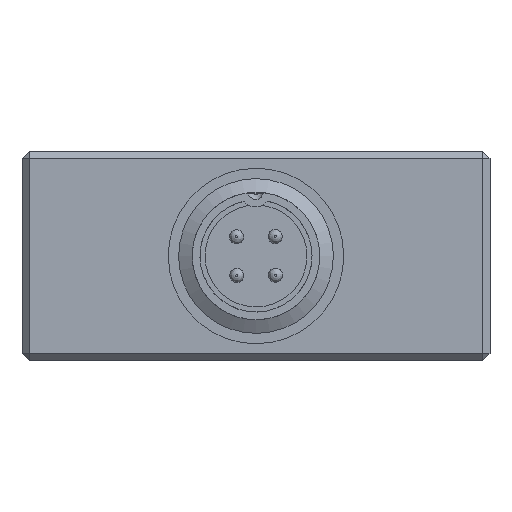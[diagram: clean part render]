
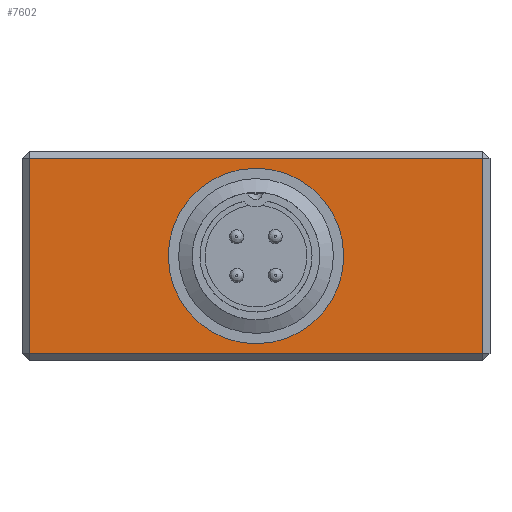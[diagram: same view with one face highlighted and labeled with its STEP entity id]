
A CAD part, left-side view. The second image highlights one B-rep face of the part: STEP entity #7602.
In plain terms, the highlighted planar face has unit normal (-1, 0, 0).
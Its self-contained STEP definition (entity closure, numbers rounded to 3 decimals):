
#647=VECTOR('',#8451,1.);
#648=VECTOR('',#8452,1.);
#649=VECTOR('',#8453,1.);
#650=VECTOR('',#8454,1.);
#1330=LINE('',#9661,#647);
#1331=LINE('',#9664,#648);
#1332=LINE('',#9666,#649);
#1333=LINE('',#9668,#650);
#2013=PLANE('',#8068);
#2243=VERTEX_POINT('',#9662);
#2244=VERTEX_POINT('',#9663);
#2245=VERTEX_POINT('',#9665);
#2246=VERTEX_POINT('',#9667);
#2247=VERTEX_POINT('',#9670);
#3009=CIRCLE('',#8069,3.6);
#3101=EDGE_CURVE('',#2243,#2244,#1330,.T.);
#3102=EDGE_CURVE('',#2245,#2243,#1331,.T.);
#3103=EDGE_CURVE('',#2246,#2245,#1332,.T.);
#3104=EDGE_CURVE('',#2244,#2246,#1333,.T.);
#3105=EDGE_CURVE('',#2247,#2247,#3009,.T.);
#4222=ORIENTED_EDGE('',*,*,#3101,.F.);
#4223=ORIENTED_EDGE('',*,*,#3102,.F.);
#4224=ORIENTED_EDGE('',*,*,#3103,.F.);
#4225=ORIENTED_EDGE('',*,*,#3104,.F.);
#4226=ORIENTED_EDGE('',*,*,#3105,.F.);
#6464=EDGE_LOOP('',(#4222,#4223,#4224,#4225));
#6465=EDGE_LOOP('',(#4226));
#7032=FACE_BOUND('',#6464,.T.);
#7033=FACE_BOUND('',#6465,.T.);
#7602=ADVANCED_FACE('',(#7032,#7033),#2013,.T.);
#8068=AXIS2_PLACEMENT_3D('',#9660,#8450,$);
#8069=AXIS2_PLACEMENT_3D('',#9669,#8455,#8456);
#8450=DIRECTION('',(-1.,0.,0.));
#8451=DIRECTION('',(0.,1.,0.));
#8452=DIRECTION('',(0.,0.,-1.));
#8453=DIRECTION('',(0.,-1.,0.));
#8454=DIRECTION('',(0.,0.,1.));
#8455=DIRECTION('',(-1.,0.,0.));
#8456=DIRECTION('',(0.,-3.6,0.023));
#9660=CARTESIAN_POINT('',(-9.6,0.,-4.3));
#9661=CARTESIAN_POINT('',(-9.6,0.,-4.));
#9662=CARTESIAN_POINT('',(-9.6,-9.3,-4.));
#9663=CARTESIAN_POINT('',(-9.6,9.3,-4.));
#9664=CARTESIAN_POINT('',(-9.6,-9.3,-4.3));
#9665=CARTESIAN_POINT('',(-9.6,-9.3,4.));
#9666=CARTESIAN_POINT('',(-9.6,0.,4.));
#9667=CARTESIAN_POINT('',(-9.6,9.3,4.));
#9668=CARTESIAN_POINT('',(-9.6,9.3,-4.3));
#9669=CARTESIAN_POINT('',(-9.6,0.,0.));
#9670=CARTESIAN_POINT('',(-9.6,-3.6,0.023));
